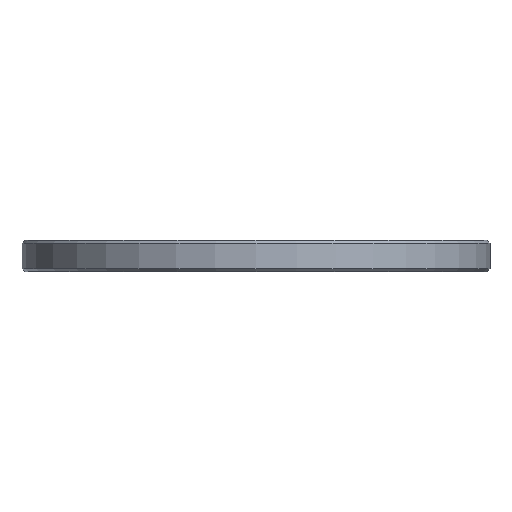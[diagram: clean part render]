
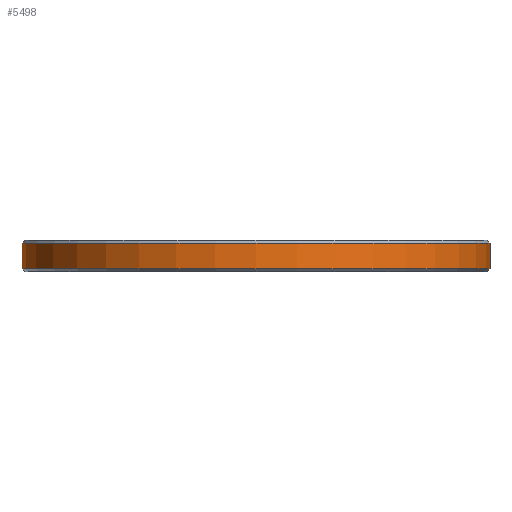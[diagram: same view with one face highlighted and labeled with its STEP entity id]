
A CAD part, front view. The second image highlights one B-rep face of the part: STEP entity #5498.
In plain terms, the highlighted cylindrical face has radius 23.438 mm (diameter 46.875 mm), a full revolution.
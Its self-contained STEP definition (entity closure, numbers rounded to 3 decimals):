
#307=CYLINDRICAL_SURFACE('',#5822,23.438);
#575=FACE_OUTER_BOUND('',#880,.T.);
#880=EDGE_LOOP('',(#5159,#5160,#5161,#5162));
#1613=LINE('',#8720,#2342);
#2342=VECTOR('',#7158,23.438);
#2382=CIRCLE('',#5821,23.438);
#2383=CIRCLE('',#5823,23.438);
#2886=VERTEX_POINT('',#8714);
#2887=VERTEX_POINT('',#8718);
#3644=EDGE_CURVE('',#2886,#2886,#2382,.T.);
#3646=EDGE_CURVE('',#2887,#2887,#2383,.T.);
#3647=EDGE_CURVE('',#2887,#2886,#1613,.T.);
#5159=ORIENTED_EDGE('',*,*,#3646,.F.);
#5160=ORIENTED_EDGE('',*,*,#3647,.T.);
#5161=ORIENTED_EDGE('',*,*,#3644,.F.);
#5162=ORIENTED_EDGE('',*,*,#3647,.F.);
#5498=ADVANCED_FACE('',(#575),#307,.T.);
#5821=AXIS2_PLACEMENT_3D('',#8715,#7151,#7152);
#5822=AXIS2_PLACEMENT_3D('',#8717,#7154,#7155);
#5823=AXIS2_PLACEMENT_3D('',#8719,#7156,#7157);
#7151=DIRECTION('center_axis',(0.,0.,-1.));
#7152=DIRECTION('ref_axis',(1.,0.,0.));
#7154=DIRECTION('center_axis',(0.,0.,1.));
#7155=DIRECTION('ref_axis',(1.,0.,0.));
#7156=DIRECTION('center_axis',(0.,0.,1.));
#7157=DIRECTION('ref_axis',(1.,0.,0.));
#7158=DIRECTION('',(0.,0.,-1.));
#8714=CARTESIAN_POINT('',(-23.438,0.,0.3));
#8715=CARTESIAN_POINT('Origin',(0.,0.,0.3));
#8717=CARTESIAN_POINT('Origin',(0.,0.,0.));
#8718=CARTESIAN_POINT('',(-23.438,0.,2.825));
#8719=CARTESIAN_POINT('Origin',(0.,0.,2.825));
#8720=CARTESIAN_POINT('',(-23.438,0.,0.));
